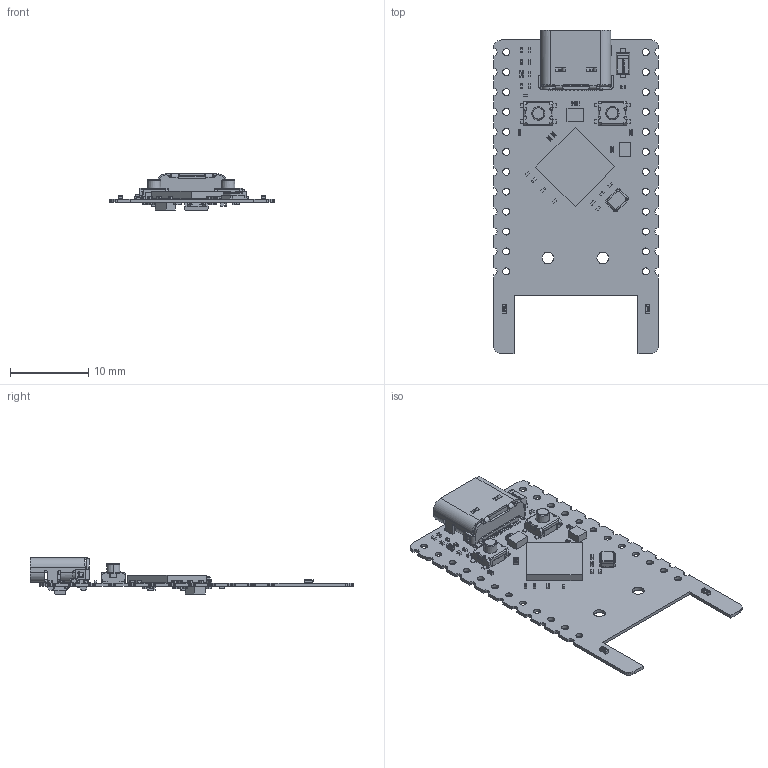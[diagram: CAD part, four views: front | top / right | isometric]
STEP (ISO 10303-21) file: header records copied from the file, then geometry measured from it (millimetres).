
FILE_DESCRIPTION(('Open CASCADE Model'),'2;1');
FILE_NAME('Open CASCADE Shape Model','2024-11-18T17:49:08',('Author'),( 'Open CASCADE'),'Open CASCADE STEP processor 6.5','Open CASCADE 6.5' ,'Unknown');
FILE_SCHEMA(('AUTOMOTIVE_DESIGN { 1 0 10303 214 1 1 1 1 }'));
Length unit declared in the file: millimetre
Products named in the file (114): PCB; Board; C24; C_0402; C_0402-4045_AF0_ASM; C_0402-672_AF0_ASM; _1_10001; 3_1_A; 2_100; Key2; ts-1185ec-a-e-a-1; R17; R0402; R_0402-5222_AF0_ASM; R_0402-3099_AF0_ASM; _2_1_20001; 5_1_2_A; _7_AF0; X1; User_Library-SM2520-4; R13; User_Library-RES_0603-0201; R3; User_Library-V0201HD; Anschl_X_FCsse_1; K_X_F6rper_1; R1; L1; 1215451808; Extruded; C13; User_Library-Chip_Cap_MLCC_0201_(0603); C7; C6; C1; C2; C11; C12; C23; C27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
Assembly tree (163 placements, depth 6):
  PCB
    Board
    C24
      C_0402
        C_0402-4045_AF0_ASM
          C_0402-672_AF0_ASM
            _1_10001
            3_1_A
            2_100
    Key2
      ts-1185ec-a-e-a-1
    R17
      R0402
        R_0402-5222_AF0_ASM
          R_0402-3099_AF0_ASM
            _2_1_20001
            5_1_2_A
            _7_AF0
    X1
      User_Library-SM2520-4
    R13
      User_Library-RES_0603-0201
    R3
      User_Library-V0201HD  x2
        Anschl_X_FCsse_1
        K_X_F6rper_1
    R1
      User_Library-V0201HD  x2
        Anschl_X_FCsse_1
        K_X_F6rper_1
    L1
      1215451808
        Extruded
    C13
      User_Library-Chip_Cap_MLCC_0201_(0603)
    C7
      User_Library-Chip_Cap_MLCC_0201_(0603)
    C6
      User_Library-Chip_Cap_MLCC_0201_(0603)
    C1
      User_Library-Chip_Cap_MLCC_0201_(0603)
    C2
      User_Library-Chip_Cap_MLCC_0201_(0603)
    C11
      User_Library-Chip_Cap_MLCC_0201_(0603)
    C12
      User_Library-Chip_Cap_MLCC_0201_(0603)
    C23
      C_0402
        C_0402-4045_AF0_ASM
          C_0402-672_AF0_ASM
            _1_10001
            3_1_A
            2_100
    C27
      User_Library-Chip_Cap_MLCC_0201_(0603)
    C28
      User_Library-Chip_Cap_MLCC_0201_(0603)
    R2
      User_Library-V0201HD  x2
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Bounding box: 21.02 x 41.24 x 4.71 mm (x, y, z)
Volume: 506.5 mm3; surface area: 2611.7 mm2
Topology: 144 solids, 157 shells, 7768 faces, 20239 edges, 12763 vertices
Faces by surface type: plane 4875, cylinder 1713, bspline 695, extrusion 401, cone 40, sphere 32, torus 12
Full cylindrical faces by diameter (mm): 0.254 x1, 0.762 x2, 0.889 x24, 1.5 x2
Entity records: 313785 total; most frequent: CARTESIAN_POINT 113115, DIRECTION 32650, VECTOR 22658, LINE 22530, ORIENTED_EDGE 20560, PCURVE 20560, DEFINITIONAL_REPRESENTATION 20560, EDGE_CURVE 10282
